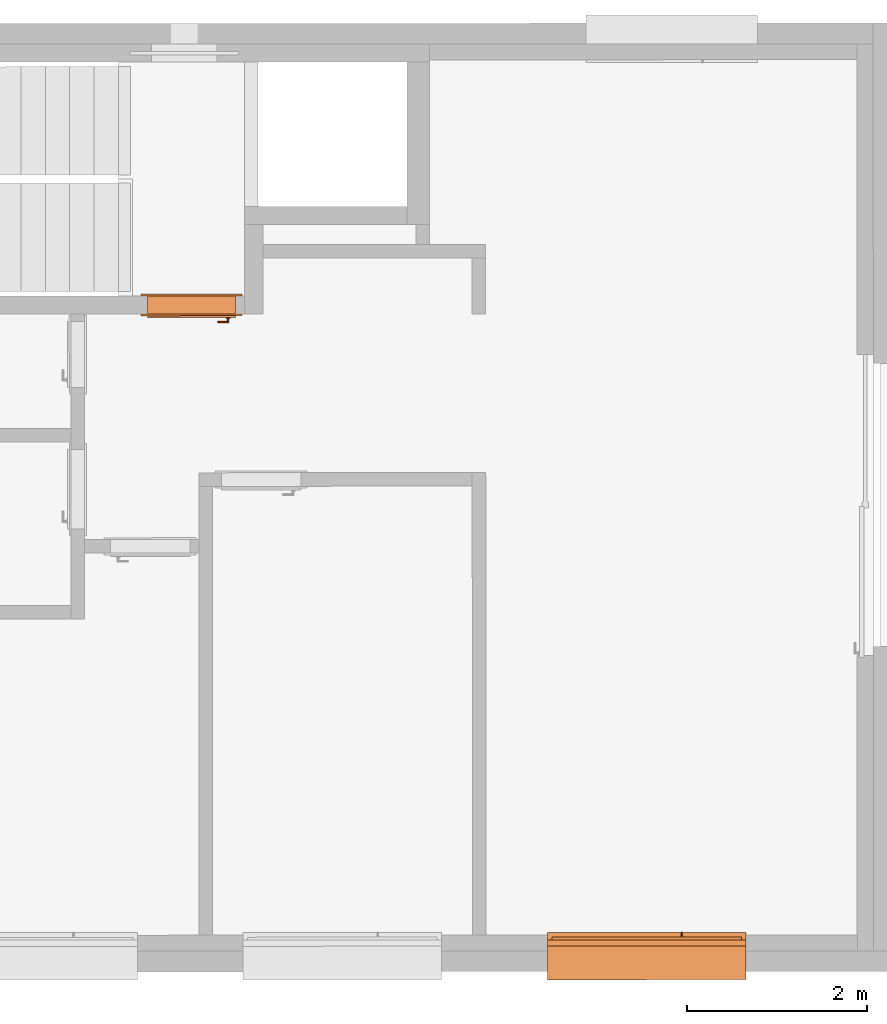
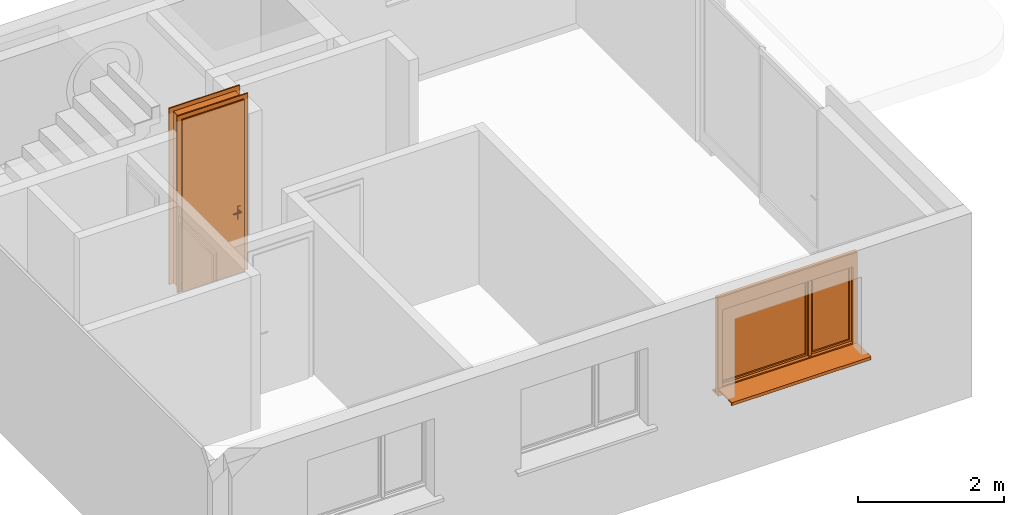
# One storey, part 6 of 9: 2 proxies.
"""IFC2X3 building model written with IfcOpenShell, lengths in metres."""

from ifc_helpers import new_model, entity, si_unit, converted_unit, derived_unit, direction, frame, origin, origin_with_axes, place, context, subcontext, project, spatial, closed_shell, open_shell, faceted_brep, surface_model, source, transform, mapped, element, save


model = new_model("IFC2X3")

# Units and contexts
model_context = context("Model", 3, precision=1e-05, world=origin(), true_north=direction((0.772621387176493, -0.634867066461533)))
body_context = subcontext(model_context, "Body", "Model", "MODEL_VIEW")
ifc_project = project(units=[si_unit("LENGTHUNIT", "METRE"), si_unit("AREAUNIT", "SQUARE_METRE"), si_unit("VOLUMEUNIT", "CUBIC_METRE"), si_unit("MASSUNIT", "GRAM", prefix="KILO"), converted_unit("PLANEANGLEUNIT", "DEGREE", entity("IfcPlaneAngleMeasure", 0.0174532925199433), si_unit("PLANEANGLEUNIT", "RADIAN"), dimensions=[0, 0, 0, 0, 0, 0, 0]), derived_unit("THERMALTRANSMITTANCEUNIT", [(si_unit("POWERUNIT", "WATT"), 1), (si_unit("THERMODYNAMICTEMPERATUREUNIT", "KELVIN"), -1), (si_unit("LENGTHUNIT", "METRE"), -2)]), derived_unit("VOLUMETRICFLOWRATEUNIT", [(si_unit("LENGTHUNIT", "METRE"), 3), (converted_unit("TIMEUNIT", "hour", entity("IfcTimeMeasure", 3600.0), si_unit("TIMEUNIT", "SECOND"), dimensions=[0, 0, 1, 0, 0, 0, 0]), -1), (si_unit("LENGTHUNIT", "METRE"), -1)])], contexts=[model_context])

# Site, building, storey
site_placement = place(None, origin())
site = spatial("IfcSite", under=ifc_project, at=site_placement, Name="Modelle auf dem Nullpunkt", CompositionType="ELEMENT")
building_placement = place(site_placement, origin())
building = spatial("IfcBuilding", under=site, at=building_placement, Name="I", CompositionType="ELEMENT")
storey_placement = place(building_placement, origin())
storey = spatial("IfcBuildingStorey", under=building, at=storey_placement, Name="1.OG", CompositionType="ELEMENT", Elevation=0.0)

# Proxies
shared_shape_1 = source(origin_with_axes(), body_context, "Body", "Brep", [
    faceted_brep([(0.0700000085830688, 0.240000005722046, 2.87), (0.0700000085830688, 0.240000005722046, 0.0), (0.0900000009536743, 0.240000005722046, 0.0), (0.0900000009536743, 0.240000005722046, 2.87), (0.0700000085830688, 0.0, 0.0), (0.0700000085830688, 0.0, 2.87), (0.0900000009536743, 0.0, 2.87), (0.0900000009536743, 0.0, 0.0)], [[[0, 1, 2, 3]], [[4, 5, 6, 7]], [[1, 0, 5, 4]], [[2, 1, 4, 7]], [[3, 2, 7, 6]], [[0, 3, 6, 5]]], orient=[[False], [False], [False], [False], [False], [False]]),
    faceted_brep([(0.0700000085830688, 0.240000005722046, 2.94), (0.0, 0.240000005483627, 2.94), (0.0, 0.240000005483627, 0.0), (0.0700000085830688, 0.240000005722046, 0.0), (0.0700000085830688, 0.22000000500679, 0.0), (0.0, 0.220000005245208, 0.0), (0.0, 0.220000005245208, 2.94), (0.0700000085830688, 0.22000000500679, 2.94)], [[[0, 1, 2, 3]], [[4, 5, 6, 7]], [[3, 4, 7, 0]], [[2, 5, 4, 3]], [[1, 6, 5, 2]], [[0, 7, 6, 1]]], orient=[[False], [False], [False], [False], [False], [False]]),
    faceted_brep([(0.0700000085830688, 0.0200000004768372, 2.94), (0.0, 0.0200000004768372, 2.94), (0.0, 0.0200000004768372, 0.0), (0.0700000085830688, 0.0200000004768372, 0.0), (0.0700000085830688, 0.0, 0.0), (0.0, 0.0, 0.0), (0.0, 0.0, 2.94), (0.0700000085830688, 0.0, 2.94)], [[[0, 1, 2, 3]], [[4, 5, 6, 7]], [[3, 4, 7, 0]], [[2, 5, 4, 3]], [[1, 6, 5, 2]], [[0, 7, 6, 1]]], orient=[[False], [False], [False], [False], [False], [False]]),
    faceted_brep([(1.03000000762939, 0.240000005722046, 2.87), (1.03000000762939, 0.240000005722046, 0.0), (1.05000000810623, 0.240000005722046, 0.0), (1.05000000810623, 0.240000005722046, 2.87), (1.03000000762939, 0.0, 0.0), (1.03000000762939, 0.0, 2.87), (1.05000000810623, 0.0, 2.87), (1.05000000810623, 0.0, 0.0)], [[[0, 1, 2, 3]], [[4, 5, 6, 7]], [[1, 0, 5, 4]], [[2, 1, 4, 7]], [[3, 2, 7, 6]], [[0, 3, 6, 5]]], orient=[[False], [False], [False], [False], [False], [False]]),
    faceted_brep([(1.05000000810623, 0.240000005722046, 2.94), (1.05000000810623, 0.240000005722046, 0.0), (1.12000000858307, 0.240000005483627, 0.0), (1.12000000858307, 0.240000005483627, 2.94), (1.05000000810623, 0.22000000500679, 0.0), (1.05000000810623, 0.22000000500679, 2.94), (1.12000000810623, 0.220000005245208, 2.94), (1.12000000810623, 0.220000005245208, 0.0)], [[[0, 1, 2, 3]], [[4, 5, 6, 7]], [[1, 0, 5, 4]], [[2, 1, 4, 7]], [[3, 2, 7, 6]], [[0, 3, 6, 5]]], orient=[[False], [False], [False], [False], [False], [False]]),
    faceted_brep([(1.05000000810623, 0.0200000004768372, 2.94), (1.05000000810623, 0.0200000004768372, 0.0), (1.12000000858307, 0.0200000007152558, 0.0), (1.12000000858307, 0.0200000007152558, 2.94), (1.05000000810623, 0.0, 0.0), (1.05000000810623, 0.0, 2.94), (1.12000000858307, 0.0, 2.94), (1.12000000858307, 0.0, 0.0)], [[[0, 1, 2, 3]], [[4, 5, 6, 7]], [[1, 0, 5, 4]], [[2, 1, 4, 7]], [[3, 2, 7, 6]], [[0, 3, 6, 5]]], orient=[[False], [False], [False], [False], [False], [False]]),
    faceted_brep([(0.0900000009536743, 0.240000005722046, 2.87), (0.0900000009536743, 0.240000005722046, 2.85), (1.03000000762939, 0.240000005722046, 2.85), (1.03000000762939, 0.240000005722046, 2.87), (0.0900000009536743, 0.0, 2.85), (0.0900000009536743, 0.0, 2.87), (1.03000000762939, 0.0, 2.87), (1.03000000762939, 0.0, 2.85)], [[[0, 1, 2, 3]], [[4, 5, 6, 7]], [[1, 0, 5, 4]], [[2, 1, 4, 7]], [[3, 2, 7, 6]], [[0, 3, 6, 5]]], orient=[[False], [False], [False], [False], [False], [False]]),
    faceted_brep([(0.0700000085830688, 0.240000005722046, 2.94), (0.0700000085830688, 0.240000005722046, 2.87), (1.05000000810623, 0.240000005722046, 2.87), (1.05000000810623, 0.240000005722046, 2.94), (0.0700000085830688, 0.22000000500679, 2.87), (0.0700000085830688, 0.22000000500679, 2.94), (1.05000000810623, 0.22000000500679, 2.94), (1.05000000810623, 0.22000000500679, 2.87)], [[[0, 1, 2, 3]], [[4, 5, 6, 7]], [[1, 0, 5, 4]], [[2, 1, 4, 7]], [[3, 2, 7, 6]], [[0, 3, 6, 5]]], orient=[[False], [False], [False], [False], [False], [False]]),
    faceted_brep([(0.0700000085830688, 0.0200000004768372, 2.94), (0.0700000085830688, 0.0200000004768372, 2.87), (1.05000000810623, 0.0200000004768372, 2.87), (1.05000000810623, 0.0200000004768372, 2.94), (0.0700000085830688, 0.0, 2.87), (0.0700000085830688, 0.0, 2.94), (1.05000000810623, 0.0, 2.94), (1.05000000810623, 0.0, 2.87)], [[[0, 1, 2, 3]], [[4, 5, 6, 7]], [[1, 0, 5, 4]], [[2, 1, 4, 7]], [[3, 2, 7, 6]], [[0, 3, 6, 5]]], orient=[[False], [False], [False], [False], [False], [False]]),
    faceted_brep([(0.0700000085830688, 0.260000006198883, 2.87), (0.0700000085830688, 0.260000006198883, 0.0), (1.05000000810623, 0.260000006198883, 0.0), (1.05000000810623, 0.260000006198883, 2.87), (0.0700000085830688, 0.22000000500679, 0.0), (0.0700000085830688, 0.22000000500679, 2.87), (1.05000000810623, 0.22000000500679, 2.87), (1.05000000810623, 0.22000000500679, 0.0)], [[[0, 1, 2, 3]], [[4, 5, 6, 7]], [[1, 0, 5, 4]], [[2, 1, 4, 7]], [[3, 2, 7, 6]], [[0, 3, 6, 5]]], orient=[[False], [False], [False], [False], [False], [False]]),
    faceted_brep([(0.130000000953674, 0.220000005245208, 1.125), (0.130000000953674, 0.220000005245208, 0.91), (0.180000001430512, 0.22000000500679, 0.91), (0.180000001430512, 0.22000000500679, 1.125), (0.130000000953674, 0.210000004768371, 0.91), (0.130000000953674, 0.210000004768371, 1.125), (0.180000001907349, 0.21000000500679, 1.125), (0.180000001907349, 0.21000000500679, 0.91)], [[[0, 1, 2, 3]], [[4, 5, 6, 7]], [[1, 0, 5, 4]], [[2, 1, 4, 7]], [[3, 2, 7, 6]], [[0, 3, 6, 5]]], orient=[[False], [False], [False], [False], [False], [False]]),
    faceted_brep([(0.155000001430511, 0.21000000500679, 1.06), (0.150000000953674, 0.210000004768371, 1.05866025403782), (0.146339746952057, 0.21000000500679, 1.055), (0.145000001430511, 0.210000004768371, 1.05), (0.146339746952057, 0.21000000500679, 1.045), (0.150000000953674, 0.210000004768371, 1.04133974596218), (0.155000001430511, 0.21000000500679, 1.04), (0.160000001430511, 0.21000000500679, 1.04133974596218), (0.163660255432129, 0.21000000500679, 1.045), (0.165000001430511, 0.21000000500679, 1.05), (0.163660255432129, 0.21000000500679, 1.055), (0.160000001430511, 0.21000000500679, 1.05866025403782), (0.155000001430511, 0.170000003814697, 1.06), (0.150000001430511, 0.165000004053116, 1.05866025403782), (0.146339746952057, 0.161339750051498, 1.055), (0.145000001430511, 0.160000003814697, 1.05), (0.146339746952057, 0.161339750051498, 1.045), (0.150000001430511, 0.165000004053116, 1.04133974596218), (0.155000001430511, 0.170000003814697, 1.04), (0.160000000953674, 0.175000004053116, 1.04133974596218), (0.163660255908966, 0.178660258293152, 1.045), (0.165000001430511, 0.180000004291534, 1.05), (0.163660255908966, 0.178660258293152, 1.055), (0.160000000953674, 0.175000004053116, 1.05866025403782), (0.270000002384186, 0.170000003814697, 1.06), (0.270000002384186, 0.175000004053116, 1.05866025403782), (0.270000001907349, 0.178660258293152, 1.055), (0.270000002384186, 0.180000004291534, 1.05), (0.270000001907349, 0.178660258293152, 1.045), (0.270000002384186, 0.175000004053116, 1.04133974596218), (0.270000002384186, 0.170000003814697, 1.04), (0.270000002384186, 0.165000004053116, 1.04133974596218), (0.270000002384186, 0.16133974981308, 1.045), (0.270000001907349, 0.160000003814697, 1.05), (0.270000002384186, 0.16133974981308, 1.055), (0.270000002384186, 0.165000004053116, 1.05866025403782)], [[[0, 1, 2, 3, 4, 5, 6, 7, 8, 9, 10, 11]], [[0, 12, 13, 1]], [[1, 13, 14, 2]], [[2, 14, 15, 3]], [[3, 15, 16, 4]], [[4, 16, 17, 5]], [[5, 17, 18, 6]], [[6, 18, 19, 7]], [[7, 19, 20, 8]], [[8, 20, 21, 9]], [[9, 21, 22, 10]], [[10, 22, 23, 11]], [[11, 23, 12, 0]], [[24, 25, 26, 27, 28, 29, 30, 31, 32, 33, 34, 35]], [[12, 24, 35, 13]], [[13, 35, 34, 14]], [[14, 34, 33, 15]], [[15, 33, 32, 16]], [[16, 32, 31, 17]], [[17, 31, 30, 18]], [[18, 30, 29, 19]], [[19, 29, 28, 20]], [[20, 28, 27, 21]], [[21, 27, 26, 22]], [[22, 26, 25, 23]], [[23, 25, 24, 12]]], orient=[[False], [False], [False], [False], [False], [False], [False], [False], [False], [False], [False], [False], [False], [False], [False], [False], [False], [False], [False], [False], [False], [False], [False], [False], [False], [False]]),
    faceted_brep([(0.130000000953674, 0.260000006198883, 1.125), (0.180000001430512, 0.260000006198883, 1.125), (0.180000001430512, 0.260000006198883, 0.91), (0.130000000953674, 0.260000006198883, 0.91), (0.130000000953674, 0.270000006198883, 0.91), (0.180000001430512, 0.270000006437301, 0.91), (0.180000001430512, 0.270000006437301, 1.125), (0.130000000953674, 0.270000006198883, 1.125)], [[[0, 1, 2, 3]], [[4, 5, 6, 7]], [[3, 4, 7, 0]], [[2, 5, 4, 3]], [[1, 6, 5, 2]], [[0, 7, 6, 1]]], orient=[[False], [False], [False], [False], [False], [False]]),
    faceted_brep([(0.155000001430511, 0.270000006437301, 1.06), (0.160000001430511, 0.270000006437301, 1.05866025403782), (0.163660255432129, 0.270000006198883, 1.055), (0.165000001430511, 0.270000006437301, 1.05), (0.163660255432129, 0.270000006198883, 1.045), (0.160000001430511, 0.270000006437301, 1.04133974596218), (0.155000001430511, 0.270000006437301, 1.04), (0.150000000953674, 0.270000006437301, 1.04133974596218), (0.146339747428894, 0.270000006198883, 1.045), (0.145000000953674, 0.270000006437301, 1.05), (0.146339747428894, 0.270000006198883, 1.055), (0.150000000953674, 0.270000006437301, 1.05866025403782), (0.150000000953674, 0.315000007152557, 1.05866025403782), (0.155000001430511, 0.310000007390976, 1.06), (0.146339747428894, 0.318660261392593, 1.055), (0.145000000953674, 0.320000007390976, 1.05), (0.146339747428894, 0.318660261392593, 1.045), (0.150000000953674, 0.315000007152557, 1.04133974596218), (0.155000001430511, 0.310000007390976, 1.04), (0.160000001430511, 0.305000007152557, 1.04133974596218), (0.163660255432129, 0.301339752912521, 1.045), (0.165000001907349, 0.300000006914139, 1.05), (0.163660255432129, 0.301339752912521, 1.055), (0.160000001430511, 0.305000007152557, 1.05866025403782), (0.270000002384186, 0.310000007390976, 1.06), (0.270000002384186, 0.315000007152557, 1.05866025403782), (0.270000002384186, 0.318660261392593, 1.055), (0.270000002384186, 0.320000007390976, 1.05), (0.270000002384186, 0.318660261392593, 1.045), (0.270000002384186, 0.315000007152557, 1.04133974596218), (0.270000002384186, 0.310000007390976, 1.04), (0.270000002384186, 0.305000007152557, 1.04133974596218), (0.270000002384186, 0.301339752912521, 1.045), (0.270000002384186, 0.300000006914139, 1.05), (0.270000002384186, 0.301339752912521, 1.055), (0.270000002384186, 0.305000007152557, 1.05866025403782)], [[[0, 1, 2, 3, 4, 5, 6, 7, 8, 9, 10, 11]], [[0, 11, 12, 13]], [[11, 10, 14, 12]], [[10, 9, 15, 14]], [[9, 8, 16, 15]], [[8, 7, 17, 16]], [[7, 6, 18, 17]], [[6, 5, 19, 18]], [[5, 4, 20, 19]], [[4, 3, 21, 20]], [[3, 2, 22, 21]], [[2, 1, 23, 22]], [[1, 0, 13, 23]], [[24, 25, 26, 27, 28, 29, 30, 31, 32, 33, 34, 35]], [[13, 12, 25, 24]], [[12, 14, 26, 25]], [[14, 15, 27, 26]], [[15, 16, 28, 27]], [[16, 17, 29, 28]], [[17, 18, 30, 29]], [[18, 19, 31, 30]], [[19, 20, 32, 31]], [[20, 21, 33, 32]], [[21, 22, 34, 33]], [[22, 23, 35, 34]], [[23, 13, 24, 35]]], orient=[[False], [False], [False], [False], [False], [False], [False], [False], [False], [False], [False], [False], [False], [False], [False], [False], [False], [False], [False], [False], [False], [False], [False], [False], [False], [False]]),
])
proxy_1_placement = place(storey_placement, frame((34.0329265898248, -0.631736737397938, 438.82), z_axis=(0.0, 0.0, 1.0), x_axis=(-0.999999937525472, -0.000353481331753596, 0.0)))
element("IfcBuildingElementProxy", 1, at=proxy_1_placement, inside=storey, Name="1flg Weiß UZ außen", context=body_context, shape_type="MappedRepresentation", body=[
    mapped(shared_shape_1, transform((0.0, 0.0, 0.0), x_axis=(1.0, 0.0, 0.0), y_axis=(0.0, 1.0, 0.0), z_axis=(0.0, 0.0, 1.0), scale=1.0)),
])
shared_shape_2 = source(origin_with_axes(), body_context, "Body", "SurfaceModel", [
    surface_model("IfcShellBasedSurfaceModel", [(0.0, 0.02, 0.1), (0.0, 0.3725, 0.1), (0.0, 0.3725, 0.13), (0.0, 0.0, 0.12), (0.0, 0.0, 0.07), (0.0, 0.02, 0.07), (2.2, 0.3725, 0.1), (2.2, 0.02, 0.1), (2.2, 0.02, 0.0700000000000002), (2.2, 0.0, 0.0700000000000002), (2.2, 0.0, 0.12), (2.2, 0.3725, 0.13)], [closed_shell([[[0, 1, 2, 3, 4, 5]], [[6, 7, 8, 9, 10, 11]], [[1, 0, 7, 6]], [[2, 1, 6, 11]], [[3, 2, 11, 10]], [[4, 3, 10, 9]], [[5, 4, 9, 8]], [[0, 5, 8, 7]]], orient=[[False], [False], [False], [False], [False], [False], [False], [False]])]),
    surface_model("IfcShellBasedSurfaceModel", [(0.0, 0.525, 0.0), (0.0, 0.525, 0.03), (0.0, 0.4125, 0.03), (0.0, 0.4125, 0.0), (2.2, 0.4125, 0.0), (2.2, 0.4125, 0.0300000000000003), (2.2, 0.525, 0.0300000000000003), (2.2, 0.525, 0.0)], [closed_shell([[[0, 1, 2, 3]], [[4, 5, 6, 7]], [[3, 4, 7, 0]], [[2, 5, 4, 3]], [[1, 6, 5, 2]], [[0, 7, 6, 1]]], orient=[[False], [False], [False], [False], [False], [False]])]),
    surface_model("IfcShellBasedSurfaceModel", [(0.0, 0.4425, 1.64), (0.0, 0.4425, 0.0), (0.07, 0.4425, 0.0), (0.07, 0.4425, 1.64), (0.0, 0.3725, 0.0), (0.0, 0.3725, 1.64), (0.07, 0.3725, 1.64), (0.07, 0.3725, 0.0)], [closed_shell([[[0, 1, 2, 3]], [[4, 5, 6, 7]], [[1, 0, 5, 4]], [[2, 1, 4, 7]], [[3, 2, 7, 6]], [[0, 3, 6, 5]]], orient=[[False], [False], [False], [False], [False], [False]])]),
    surface_model("IfcShellBasedSurfaceModel", [(2.13, 0.4425, 1.64), (2.13, 0.4425, 0.0), (2.2, 0.4425, 0.0), (2.2, 0.4425, 1.64), (2.13, 0.3725, 0.0), (2.13, 0.3725, 1.64), (2.2, 0.3725, 1.64), (2.2, 0.3725, 0.0)], [closed_shell([[[0, 1, 2, 3]], [[4, 5, 6, 7]], [[1, 0, 5, 4]], [[2, 1, 4, 7]], [[3, 2, 7, 6]], [[0, 3, 6, 5]]], orient=[[False], [False], [False], [False], [False], [False]])]),
    surface_model("IfcShellBasedSurfaceModel", [(0.07, 0.4425, 0.15), (0.07, 0.4425, 0.0), (2.13, 0.4425, 0.0), (2.13, 0.4425, 0.15), (0.07, 0.3725, 0.0), (0.07, 0.3725, 0.15), (2.13, 0.3725, 0.15), (2.13, 0.3725, 0.0)], [closed_shell([[[0, 1, 2, 3]], [[4, 5, 6, 7]], [[1, 0, 5, 4]], [[2, 1, 4, 7]], [[3, 2, 7, 6]], [[0, 3, 6, 5]]], orient=[[False], [False], [False], [False], [False], [False]])]),
    surface_model("IfcShellBasedSurfaceModel", [(0.07, 0.4425, 1.64), (0.07, 0.4425, 1.42), (2.13, 0.4425, 1.42), (2.13, 0.4425, 1.64), (0.07, 0.3725, 1.42), (0.07, 0.3725, 1.64), (2.13, 0.3725, 1.64), (2.13, 0.3725, 1.42)], [closed_shell([[[0, 1, 2, 3]], [[4, 5, 6, 7]], [[1, 0, 5, 4]], [[2, 1, 4, 7]], [[3, 2, 7, 6]], [[0, 3, 6, 5]]], orient=[[False], [False], [False], [False], [False], [False]])]),
    surface_model("IfcShellBasedSurfaceModel", [(0.05, 0.4725, 1.44), (0.05, 0.4725, 0.13), (0.1, 0.4725, 0.13), (0.1, 0.4725, 1.44), (0.05, 0.4225, 0.13), (0.05, 0.4225, 1.44), (0.1, 0.4225, 1.44), (0.1, 0.4225, 0.13)], [closed_shell([[[0, 1, 2, 3]], [[4, 5, 6, 7]], [[1, 0, 5, 4]], [[2, 1, 4, 7]], [[3, 2, 7, 6]], [[0, 3, 6, 5]]], orient=[[False], [False], [False], [False], [False], [False]])]),
    surface_model("IfcShellBasedSurfaceModel", [(1.41498387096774, 0.4725, 1.44), (1.41498387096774, 0.4725, 0.13), (1.46498387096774, 0.4725, 0.13), (1.46498387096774, 0.4725, 1.44), (1.41498387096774, 0.4225, 0.13), (1.41498387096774, 0.4225, 1.44), (1.46498387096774, 0.4225, 1.44), (1.46498387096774, 0.4225, 0.13)], [closed_shell([[[0, 1, 2, 3]], [[4, 5, 6, 7]], [[1, 0, 5, 4]], [[2, 1, 4, 7]], [[3, 2, 7, 6]], [[0, 3, 6, 5]]], orient=[[False], [False], [False], [False], [False], [False]])]),
    surface_model("IfcShellBasedSurfaceModel", [(0.1, 0.4725, 0.18), (0.1, 0.4725, 0.13), (1.41498387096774, 0.4725, 0.13), (1.41498387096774, 0.4725, 0.18), (0.1, 0.4225, 0.13), (0.1, 0.4225, 0.18), (1.41498387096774, 0.4225, 0.18), (1.41498387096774, 0.4225, 0.13)], [closed_shell([[[0, 1, 2, 3]], [[4, 5, 6, 7]], [[1, 0, 5, 4]], [[2, 1, 4, 7]], [[3, 2, 7, 6]], [[0, 3, 6, 5]]], orient=[[False], [False], [False], [False], [False], [False]])]),
    surface_model("IfcShellBasedSurfaceModel", [(0.1, 0.4725, 1.44), (0.1, 0.4725, 1.39), (1.41498387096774, 0.4725, 1.39), (1.41498387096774, 0.4725, 1.44), (0.1, 0.4225, 1.39), (0.1, 0.4225, 1.44), (1.41498387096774, 0.4225, 1.44), (1.41498387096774, 0.4225, 1.39)], [closed_shell([[[0, 1, 2, 3]], [[4, 5, 6, 7]], [[1, 0, 5, 4]], [[2, 1, 4, 7]], [[3, 2, 7, 6]], [[0, 3, 6, 5]]], orient=[[False], [False], [False], [False], [False], [False]])]),
    surface_model("IfcShellBasedSurfaceModel", [(1.43998387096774, 0.4225, 1.42), (1.43998387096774, 0.4225, 0.15), (1.48998387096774, 0.4225, 0.15), (1.48998387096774, 0.4225, 1.42), (1.43998387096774, 0.3975, 0.15), (1.43998387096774, 0.3975, 1.42), (1.48998387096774, 0.3975, 1.42), (1.48998387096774, 0.3975, 0.15)], [closed_shell([[[0, 1, 2, 3]], [[4, 5, 6, 7]], [[1, 0, 5, 4]], [[2, 1, 4, 7]], [[3, 2, 7, 6]], [[0, 3, 6, 5]]], orient=[[False], [False], [False], [False], [False], [False]])]),
    surface_model("IfcShellBasedSurfaceModel", [(1.46598387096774, 0.4725, 1.44), (1.46598387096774, 0.4725, 0.13), (1.51598387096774, 0.4725, 0.13), (1.51598387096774, 0.4725, 1.44), (1.46598387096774, 0.4225, 0.13), (1.46598387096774, 0.4225, 1.44), (1.51598387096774, 0.4225, 1.44), (1.51598387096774, 0.4225, 0.13)], [closed_shell([[[0, 1, 2, 3]], [[4, 5, 6, 7]], [[1, 0, 5, 4]], [[2, 1, 4, 7]], [[3, 2, 7, 6]], [[0, 3, 6, 5]]], orient=[[False], [False], [False], [False], [False], [False]])]),
    surface_model("IfcShellBasedSurfaceModel", [(2.1, 0.4725, 1.44), (2.1, 0.4725, 0.13), (2.15, 0.4725, 0.13), (2.15, 0.4725, 1.44), (2.1, 0.4225, 0.13), (2.1, 0.4225, 1.44), (2.15, 0.4225, 1.44), (2.15, 0.4225, 0.13)], [closed_shell([[[0, 1, 2, 3]], [[4, 5, 6, 7]], [[1, 0, 5, 4]], [[2, 1, 4, 7]], [[3, 2, 7, 6]], [[0, 3, 6, 5]]], orient=[[False], [False], [False], [False], [False], [False]])]),
    surface_model("IfcShellBasedSurfaceModel", [(1.51598387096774, 0.4725, 0.18), (1.51598387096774, 0.4725, 0.13), (2.1, 0.4725, 0.13), (2.1, 0.4725, 0.18), (1.51598387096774, 0.4225, 0.13), (1.51598387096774, 0.4225, 0.18), (2.1, 0.4225, 0.18), (2.1, 0.4225, 0.13)], [closed_shell([[[0, 1, 2, 3]], [[4, 5, 6, 7]], [[1, 0, 5, 4]], [[2, 1, 4, 7]], [[3, 2, 7, 6]], [[0, 3, 6, 5]]], orient=[[False], [False], [False], [False], [False], [False]])]),
    surface_model("IfcShellBasedSurfaceModel", [(1.51598387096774, 0.4725, 1.44), (1.51598387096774, 0.4725, 1.39), (2.1, 0.4725, 1.39), (2.1, 0.4725, 1.44), (1.51598387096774, 0.4225, 1.39), (1.51598387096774, 0.4225, 1.44), (2.1, 0.4225, 1.44), (2.1, 0.4225, 1.39)], [closed_shell([[[0, 1, 2, 3]], [[4, 5, 6, 7]], [[1, 0, 5, 4]], [[2, 1, 4, 7]], [[3, 2, 7, 6]], [[0, 3, 6, 5]]], orient=[[False], [False], [False], [False], [False], [False]])]),
    surface_model("IfcShellBasedSurfaceModel", [(1.47848387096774, 0.4725, 0.75), (1.50348387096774, 0.4725, 0.75), (1.50348387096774, 0.4725, 0.71), (1.47848387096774, 0.4725, 0.71), (1.47848387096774, 0.4825, 0.71), (1.50348387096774, 0.4825, 0.71), (1.50348387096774, 0.4825, 0.75), (1.47848387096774, 0.4825, 0.75)], [closed_shell([[[0, 1, 2, 3]], [[4, 5, 6, 7]], [[3, 4, 7, 0]], [[2, 5, 4, 3]], [[1, 6, 5, 2]], [[0, 7, 6, 1]]], orient=[[False], [False], [False], [False], [False], [False]])]),
    surface_model("IfcShellBasedSurfaceModel", [(1.50098387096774, 0.4825, 0.73), (1.49964412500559, 0.4825, 0.725), (1.49598387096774, 0.4825, 0.721339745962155), (1.49098387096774, 0.4825, 0.72), (1.48598387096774, 0.4825, 0.721339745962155), (1.4823236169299, 0.4825, 0.725), (1.48098387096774, 0.4825, 0.73), (1.4823236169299, 0.4825, 0.735), (1.48598387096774, 0.4825, 0.738660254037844), (1.49098387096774, 0.4825, 0.74), (1.49598387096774, 0.4825, 0.738660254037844), (1.49964412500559, 0.4825, 0.735), (1.49964412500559, 0.5275, 0.735), (1.50098387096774, 0.5225, 0.73), (1.49598387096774, 0.531160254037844, 0.738660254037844), (1.49098387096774, 0.5325, 0.74), (1.48598387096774, 0.531160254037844, 0.738660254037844), (1.4823236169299, 0.5275, 0.735), (1.48098387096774, 0.5225, 0.73), (1.4823236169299, 0.5175, 0.725), (1.48598387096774, 0.513839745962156, 0.721339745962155), (1.49098387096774, 0.5125, 0.72), (1.49598387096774, 0.513839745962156, 0.721339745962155), (1.49964412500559, 0.5175, 0.725), (1.50098387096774, 0.5225, 0.615), (1.49964412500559, 0.5275, 0.615), (1.49598387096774, 0.531160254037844, 0.615), (1.49098387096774, 0.5325, 0.615), (1.48598387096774, 0.531160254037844, 0.615), (1.4823236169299, 0.5275, 0.615), (1.48098387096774, 0.5225, 0.615), (1.4823236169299, 0.5175, 0.615), (1.48598387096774, 0.513839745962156, 0.615), (1.49098387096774, 0.5125, 0.615), (1.49598387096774, 0.513839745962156, 0.615), (1.49964412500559, 0.5175, 0.615)], [closed_shell([[[0, 1, 2, 3, 4, 5, 6, 7, 8, 9, 10, 11]], [[0, 11, 12, 13]], [[11, 10, 14, 12]], [[10, 9, 15, 14]], [[9, 8, 16, 15]], [[8, 7, 17, 16]], [[7, 6, 18, 17]], [[6, 5, 19, 18]], [[5, 4, 20, 19]], [[4, 3, 21, 20]], [[3, 2, 22, 21]], [[2, 1, 23, 22]], [[1, 0, 13, 23]], [[24, 25, 26, 27, 28, 29, 30, 31, 32, 33, 34, 35]], [[13, 12, 25, 24]], [[12, 14, 26, 25]], [[14, 15, 27, 26]], [[15, 16, 28, 27]], [[16, 17, 29, 28]], [[17, 18, 30, 29]], [[18, 19, 31, 30]], [[19, 20, 32, 31]], [[20, 21, 33, 32]], [[21, 22, 34, 33]], [[22, 23, 35, 34]], [[23, 13, 24, 35]]], orient=[[False], [False], [False], [False], [False], [False], [False], [False], [False], [False], [False], [False], [False], [False], [False], [False], [False], [False], [False], [False], [False], [False], [False], [False], [False], [False]])]),
    surface_model("IfcShellBasedSurfaceModel", [(0.1, 0.4475, 0.18), (1.41498387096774, 0.4475, 0.18), (1.41498387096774, 0.4475, 1.39), (0.1, 0.4475, 1.39)], [open_shell([[[0, 1, 2, 3]]], orient=[[False]])]),
    surface_model("IfcShellBasedSurfaceModel", [(1.51598387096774, 0.4475, 0.18), (2.1, 0.4475, 0.18), (2.1, 0.4475, 1.39), (1.51598387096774, 0.4475, 1.39)], [open_shell([[[0, 1, 2, 3]]], orient=[[False]])]),
])
proxy_2_placement = place(storey_placement, frame((37.4156128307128, -8.23054149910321, 439.75), z_axis=(0.0, 0.0, 0.999999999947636), x_axis=(0.999999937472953, 0.00035348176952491, 0.0)))
element("IfcBuildingElementProxy", 2, at=proxy_2_placement, inside=storey, Name="2flg Weiß Stulp", context=body_context, shape_type="MappedRepresentation", body=[
    mapped(shared_shape_2, transform((0.0, 0.0, 0.0), x_axis=(1.0, 0.0, 0.0), y_axis=(0.0, 1.0, 0.0), z_axis=(0.0, 0.0, 1.0), scale=0.999999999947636)),
])

save(model, "model.ifc")
